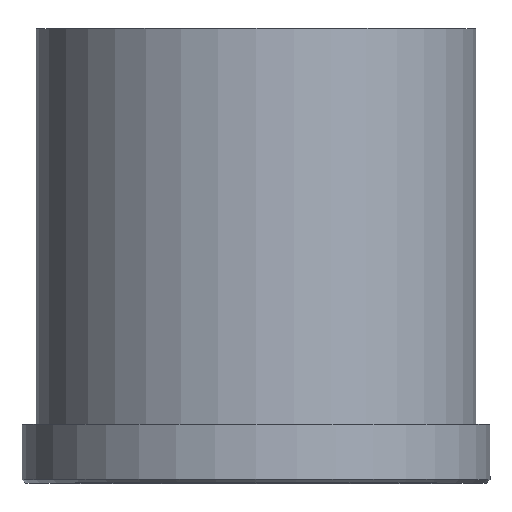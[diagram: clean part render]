
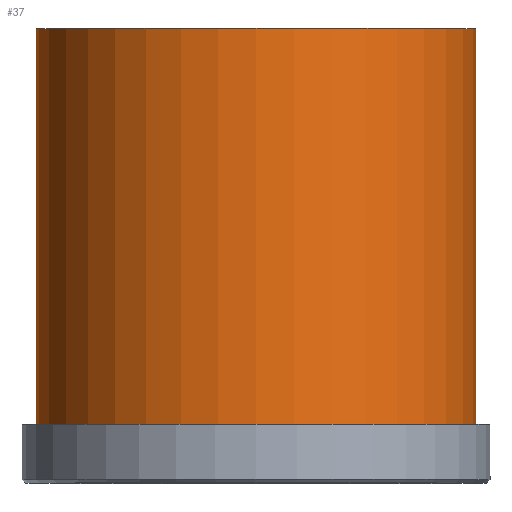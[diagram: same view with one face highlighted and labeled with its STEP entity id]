
A CAD part, top view. The second image highlights one B-rep face of the part: STEP entity #37.
In plain terms, the highlighted cylindrical face has radius 47.631 mm (diameter 95.263 mm), a partial arc.
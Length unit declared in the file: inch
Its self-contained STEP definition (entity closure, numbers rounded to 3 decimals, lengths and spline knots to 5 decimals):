
#37 = ADVANCED_FACE ( 'NONE', ( #234 ), #233, .T. ) ;
#42 = EDGE_LOOP ( 'NONE', ( #130, #136, #131, #137 ) ) ;
#123 = EDGE_CURVE ( 'NONE', #127, #134, #276, .T. ) ;
#127 = VERTEX_POINT ( 'NONE', #277 ) ;
#128 = EDGE_CURVE ( 'NONE', #135, #129, #292, .T. ) ;
#129 = VERTEX_POINT ( 'NONE', #281 ) ;
#130 = ORIENTED_EDGE ( 'NONE', *, *, #132, .T. ) ;
#131 = ORIENTED_EDGE ( 'NONE', *, *, #133, .F. ) ;
#132 = EDGE_CURVE ( 'NONE', #127, #135, #290, .T. ) ;
#133 = EDGE_CURVE ( 'NONE', #134, #129, #308, .T. ) ;
#134 = VERTEX_POINT ( 'NONE', #304 ) ;
#135 = VERTEX_POINT ( 'NONE', #306 ) ;
#136 = ORIENTED_EDGE ( 'NONE', *, *, #128, .T. ) ;
#137 = ORIENTED_EDGE ( 'NONE', *, *, #123, .F. ) ;
#229 = DIRECTION ( 'NONE',  ( 1., 0., 0. ) ) ;
#230 = DIRECTION ( 'NONE',  ( 0., -1., 0. ) ) ;
#231 = CARTESIAN_POINT ( 'NONE',  ( 0., -39.37008, 0. ) ) ;
#232 = AXIS2_PLACEMENT_3D ( 'NONE', #231, #230, #229 ) ;
#233 = CYLINDRICAL_SURFACE ( 'NONE', #232, 1.87525 ) ;
#234 = FACE_OUTER_BOUND ( 'NONE', #42, .T. ) ;
#268 = CARTESIAN_POINT ( 'NONE',  ( 0., 3.875, 0. ) ) ;
#269 = DIRECTION ( 'NONE',  ( 0., -1., 0. ) ) ;
#271 = DIRECTION ( 'NONE',  ( 1., 0., 0. ) ) ;
#272 = AXIS2_PLACEMENT_3D ( 'NONE', #268, #269, #271 ) ;
#274 = VECTOR ( 'NONE', #289, 39.37008 ) ;
#276 = LINE ( 'NONE', #285, #274 ) ;
#277 = CARTESIAN_POINT ( 'NONE',  ( 1.87525, 3.875, 0. ) ) ;
#281 = CARTESIAN_POINT ( 'NONE',  ( -1.87525, 0.5, 0. ) ) ;
#282 = DIRECTION ( 'NONE',  ( 0., -1., 0. ) ) ;
#283 = VECTOR ( 'NONE', #282, 39.37008 ) ;
#284 = CARTESIAN_POINT ( 'NONE',  ( -1.87525, -39.37008, 0. ) ) ;
#285 = CARTESIAN_POINT ( 'NONE',  ( 1.87525, -39.37008, 0. ) ) ;
#289 = DIRECTION ( 'NONE',  ( 0., -1., 0. ) ) ;
#290 = CIRCLE ( 'NONE', #272, 1.87525 ) ;
#292 = LINE ( 'NONE', #284, #283 ) ;
#298 = AXIS2_PLACEMENT_3D ( 'NONE', #300, #299, #305 ) ;
#299 = DIRECTION ( 'NONE',  ( 0., -1., 0. ) ) ;
#300 = CARTESIAN_POINT ( 'NONE',  ( 0., 0.5, 0. ) ) ;
#304 = CARTESIAN_POINT ( 'NONE',  ( 1.87525, 0.5, 0. ) ) ;
#305 = DIRECTION ( 'NONE',  ( 1., 0., 0. ) ) ;
#306 = CARTESIAN_POINT ( 'NONE',  ( -1.87525, 3.875, 0. ) ) ;
#308 = CIRCLE ( 'NONE', #298, 1.87525 ) ;
